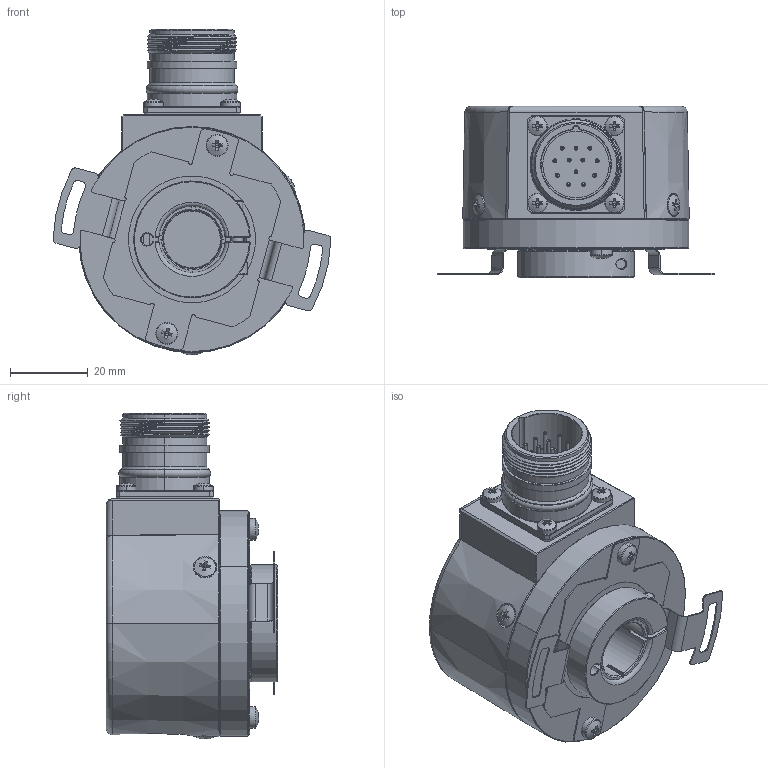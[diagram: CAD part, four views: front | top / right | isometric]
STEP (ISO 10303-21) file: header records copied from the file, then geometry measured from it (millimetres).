
FILE_DESCRIPTION (( 'STEP AP214' ), '1' );
FILE_NAME ('SASM8x20.STEP', '2023-10-09T06:49:36', ( '' ), ( '' ), 'SwSTEP 2.0', 'SolidWorks 2019', '' );
FILE_SCHEMA (( 'AUTOMOTIVE_DESIGN' ));
Length unit declared in the file: millimetre
Products named in the file (1): SASM8x20
Bounding box: 71.33 x 43.99 x 83.66 mm (x, y, z)
Volume: 63937 mm3; surface area: 35671.2 mm2
Topology: 1 solids, 25 shells, 1361 faces, 3375 edges, 2077 vertices
Faces by surface type: plane 670, cylinder 311, cone 221, bspline 82, torus 77
Entity records: 62360 total; most frequent: CARTESIAN_POINT 16363, ORIENTED_EDGE 6674, DIRECTION 6266, EDGE_CURVE 3337, AXIS2_PLACEMENT_3D 2495, VERTEX_POINT 2077, EDGE_LOOP 1464, UNCERTAINTY_MEASURE_WITH_UNIT 1364
